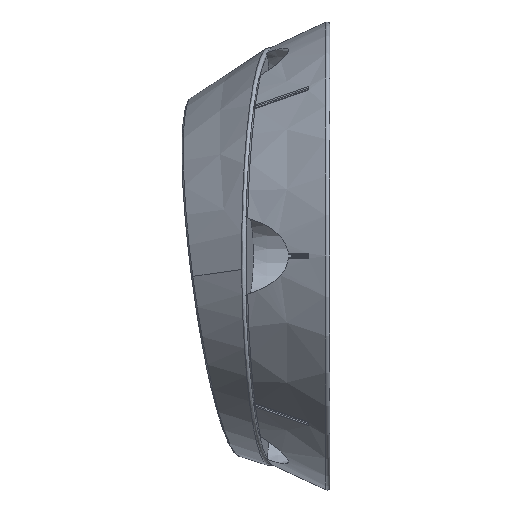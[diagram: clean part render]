
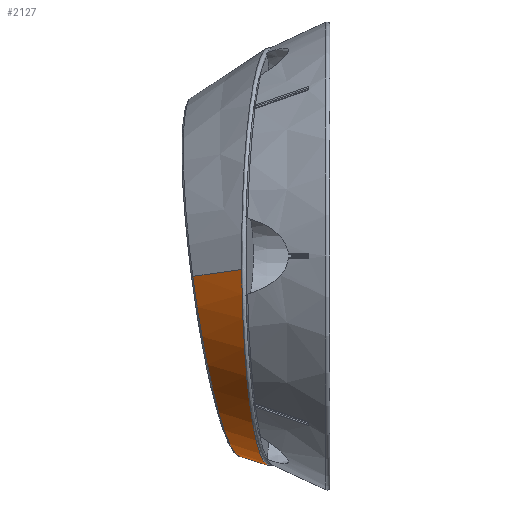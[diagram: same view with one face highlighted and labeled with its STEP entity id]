
A CAD part, left-side view. The second image highlights one B-rep face of the part: STEP entity #2127.
In plain terms, the highlighted conical face has half-angle 25 degrees and reference radius 40 mm.
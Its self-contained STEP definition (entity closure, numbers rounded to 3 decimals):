
#55 = CARTESIAN_POINT ( 'NONE',  ( 1.902, 15.407, -33.992 ) ) ;
#253 = CARTESIAN_POINT ( 'NONE',  ( -32.434, 14.986, -2.29 ) ) ;
#317 = CARTESIAN_POINT ( 'NONE',  ( 1.767, 14.385, -34.318 ) ) ;
#380 = AXIS2_PLACEMENT_3D ( 'NONE', #5365, #3263, #9123 ) ;
#802 = VECTOR ( 'NONE', #7011, 1000. ) ;
#974 = CARTESIAN_POINT ( 'NONE',  ( -16.566, 12.848, -29.931 ) ) ;
#1281 = CARTESIAN_POINT ( 'NONE',  ( 0.883, -0.116, -0.891 ) ) ;
#1482 = VERTEX_POINT ( 'NONE', #253 ) ;
#1493 = EDGE_CURVE ( 'NONE', #1976, #1652, #6771, .T. ) ;
#1652 = VERTEX_POINT ( 'NONE', #5324 ) ;
#1796 = CARTESIAN_POINT ( 'NONE',  ( -4.148, 11.203, -34.982 ) ) ;
#1976 = VERTEX_POINT ( 'NONE', #55 ) ;
#2127 = ADVANCED_FACE ( 'NONE', ( #9779 ), #2938, .T. ) ;
#2515 = CARTESIAN_POINT ( 'NONE',  ( 0.167, 10.634, -35.525 ) ) ;
#2754 = CARTESIAN_POINT ( 'NONE',  ( -0.918, 10.777, -35.44 ) ) ;
#2890 = CARTESIAN_POINT ( 'NONE',  ( -14.715, 12.602, -31.065 ) ) ;
#2938 = CONICAL_SURFACE ( 'NONE', #3144, 40., 0.436 ) ;
#2974 = CARTESIAN_POINT ( 'NONE',  ( -27.111, 23.28, -3.464 ) ) ;
#3144 = AXIS2_PLACEMENT_3D ( 'NONE', #1281, #6219, #10164 ) ;
#3213 = CARTESIAN_POINT ( 'NONE',  ( 1.902, 15.407, -33.992 ) ) ;
#3263 = DIRECTION ( 'NONE',  ( -0.129, -0.983, 0.131 ) ) ;
#3548 = EDGE_LOOP ( 'NONE', ( #4378, #8546, #12307, #8933 ) ) ;
#3925 = CARTESIAN_POINT ( 'NONE',  ( -38.774, 5.105, -0.891 ) ) ;
#3926 = CARTESIAN_POINT ( 'NONE',  ( -12.315, 12.283, -32.325 ) ) ;
#4053 = CARTESIAN_POINT ( 'NONE',  ( 1.568, 12.872, -34.799 ) ) ;
#4238 = CARTESIAN_POINT ( 'NONE',  ( 1.464, 12.078, -35.052 ) ) ;
#4378 = ORIENTED_EDGE ( 'NONE', *, *, #12510, .F. ) ;
#4455 = CARTESIAN_POINT ( 'NONE',  ( 1.254, 10.491, -35.557 ) ) ;
#4696 = CARTESIAN_POINT ( 'NONE',  ( -20.459, 13.365, -27.047 ) ) ;
#4759 = CARTESIAN_POINT ( 'NONE',  ( -23.852, 13.818, -23.535 ) ) ;
#4821 = CARTESIAN_POINT ( 'NONE',  ( -32.304, 14.965, -4.478 ) ) ;
#5324 = CARTESIAN_POINT ( 'NONE',  ( 1.254, 10.491, -35.557 ) ) ;
#5365 = CARTESIAN_POINT ( 'NONE',  ( 3.434, 19.259, -3.464 ) ) ;
#5721 = CARTESIAN_POINT ( 'NONE',  ( -18.798, 13.144, -28.416 ) ) ;
#5919 = CARTESIAN_POINT ( 'NONE',  ( -15.187, 12.664, -30.791 ) ) ;
#5976 = CARTESIAN_POINT ( 'NONE',  ( 1.668, 13.628, -34.558 ) ) ;
#5985 = VERTEX_POINT ( 'NONE', #2974 ) ;
#6219 = DIRECTION ( 'NONE',  ( -0.129, -0.983, 0.131 ) ) ;
#6314 = EDGE_CURVE ( 'NONE', #1652, #1482, #8306, .T. ) ;
#6684 = CARTESIAN_POINT ( 'NONE',  ( -22.379, 13.622, -25.14 ) ) ;
#6749 = CARTESIAN_POINT ( 'NONE',  ( -31.978, 14.918, -6.622 ) ) ;
#6771 = B_SPLINE_CURVE_WITH_KNOTS ( 'NONE', 3,
 ( #3213, #10878, #10110, #7134, #317, #5976, #4053, #4238, #7193, #8157 ),
 .UNSPECIFIED., .F., .F.,
 ( 4, 3, 3, 4 ),
 ( 0., 0.001, 0.003, 0.006 ),
 .UNSPECIFIED. ) ;
#7011 = DIRECTION ( 'NONE',  ( -0.536, -0.836, 0.118 ) ) ;
#7134 = CARTESIAN_POINT ( 'NONE',  ( 1.867, 15.141, -34.077 ) ) ;
#7193 = CARTESIAN_POINT ( 'NONE',  ( 1.359, 11.285, -35.304 ) ) ;
#7407 = CARTESIAN_POINT ( 'NONE',  ( -28.456, 14.437, -16.872 ) ) ;
#7555 = CIRCLE ( 'NONE', #380, 30.808 ) ;
#7646 = CARTESIAN_POINT ( 'NONE',  ( -7.312, 11.621, -34.273 ) ) ;
#7709 = CARTESIAN_POINT ( 'NONE',  ( -9.353, 11.891, -33.607 ) ) ;
#7779 = CARTESIAN_POINT ( 'NONE',  ( -24.899, 13.959, -22.282 ) ) ;
#7842 = CARTESIAN_POINT ( 'NONE',  ( -29.784, 14.617, -13.882 ) ) ;
#7973 = LINE ( 'NONE', #3925, #802 ) ;
#8157 = CARTESIAN_POINT ( 'NONE',  ( 1.254, 10.491, -35.557 ) ) ;
#8306 = B_SPLINE_CURVE_WITH_KNOTS ( 'NONE', 3,
 ( #4455, #2515, #2754, #12749, #1796, #7646, #7709, #3926, #9785, #2890, #5919, #10374, #974, #5721, #4696, #6684, #10745, #8623, #4759, #7779, #8378, #11577, #7407, #8690, #7842, #11713, #9655, #10614, #9856, #6749, #4821, #11777 ),
 .UNSPECIFIED., .F., .F.,
 ( 4, 2, 2, 2, 2, 2, 2, 2, 2, 2, 2, 2, 2, 2, 2, 4 ),
 ( 0., 0.003, 0.007, 0.013, 0.016, 0.018, 0.02, 0.026, 0.028, 0.03, 0.033, 0.039, 0.041, 0.043, 0.046, 0.053 ),
 .UNSPECIFIED. ) ;
#8378 = CARTESIAN_POINT ( 'NONE',  ( -25.554, 14.046, -21.42 ) ) ;
#8546 = ORIENTED_EDGE ( 'NONE', *, *, #11576, .T. ) ;
#8623 = CARTESIAN_POINT ( 'NONE',  ( -23.491, 13.77, -23.947 ) ) ;
#8690 = CARTESIAN_POINT ( 'NONE',  ( -29.571, 14.588, -14.387 ) ) ;
#8933 = ORIENTED_EDGE ( 'NONE', *, *, #6314, .T. ) ;
#9123 = DIRECTION ( 'NONE',  ( 0.991, -0.131, 0. ) ) ;
#9655 = CARTESIAN_POINT ( 'NONE',  ( -30.374, 14.697, -12.354 ) ) ;
#9779 = FACE_OUTER_BOUND ( 'NONE', #3548, .T. ) ;
#9785 = CARTESIAN_POINT ( 'NONE',  ( -13.286, 12.412, -31.85 ) ) ;
#9856 = CARTESIAN_POINT ( 'NONE',  ( -31.207, 14.811, -9.772 ) ) ;
#10110 = CARTESIAN_POINT ( 'NONE',  ( 1.879, 15.23, -34.049 ) ) ;
#10164 = DIRECTION ( 'NONE',  ( -0.991, 0.131, 0. ) ) ;
#10374 = CARTESIAN_POINT ( 'NONE',  ( -16.111, 12.787, -30.224 ) ) ;
#10614 = CARTESIAN_POINT ( 'NONE',  ( -30.903, 14.769, -10.811 ) ) ;
#10745 = CARTESIAN_POINT ( 'NONE',  ( -22.755, 13.672, -24.749 ) ) ;
#10878 = CARTESIAN_POINT ( 'NONE',  ( 1.89, 15.318, -34.02 ) ) ;
#11576 = EDGE_CURVE ( 'NONE', #5985, #1976, #7555, .T. ) ;
#11577 = CARTESIAN_POINT ( 'NONE',  ( -27.395, 14.294, -18.754 ) ) ;
#11713 = CARTESIAN_POINT ( 'NONE',  ( -30.185, 14.671, -12.865 ) ) ;
#11777 = CARTESIAN_POINT ( 'NONE',  ( -32.434, 14.986, -2.29 ) ) ;
#12307 = ORIENTED_EDGE ( 'NONE', *, *, #1493, .T. ) ;
#12510 = EDGE_CURVE ( 'NONE', #5985, #1482, #7973, .T. ) ;
#12749 = CARTESIAN_POINT ( 'NONE',  ( -3.073, 11.061, -35.169 ) ) ;
